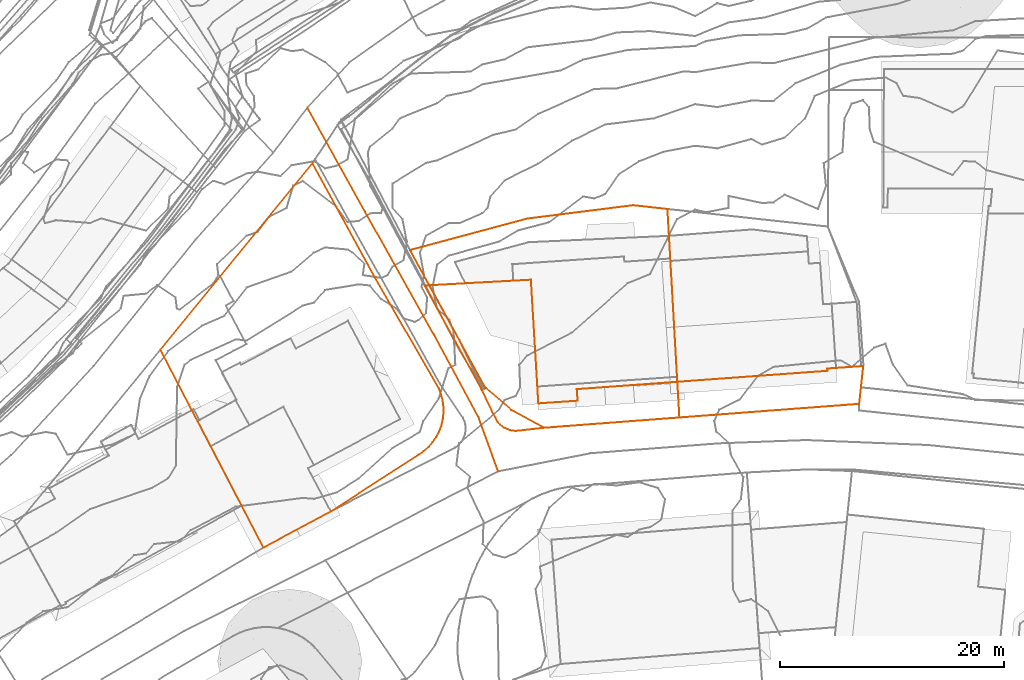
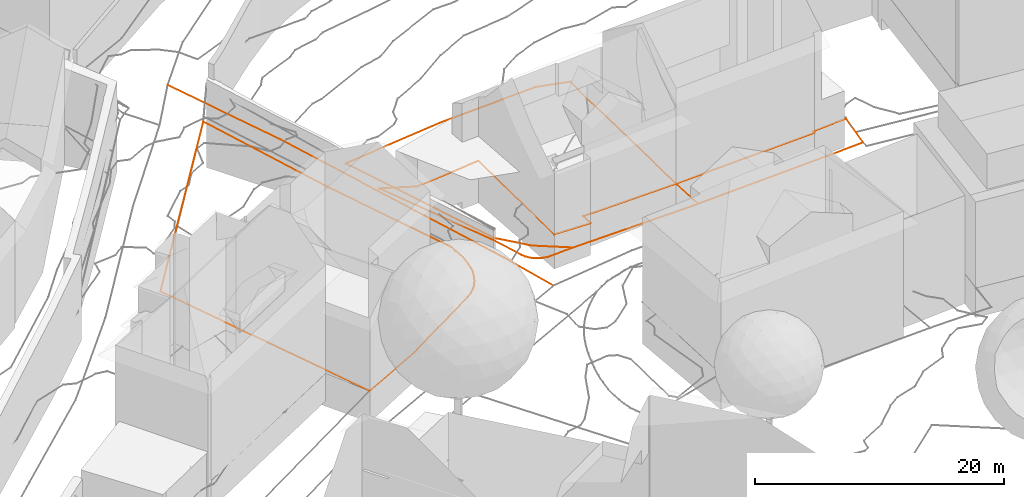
# Not in any storey, part 199 of 494: 4 proxies.
"""IFC2X3 model written with IfcOpenShell, lengths in metres."""

from ifc_helpers import new_model, entity, si_unit, frame, origin_with_axes, place, context, subcontext, project, element, save


model = new_model("IFC2X3")

# Units and contexts
model_context = context("Model", 3, precision=1e-05, world=origin_with_axes())
body_context = subcontext(model_context, "Body", "Model", "MODEL_VIEW")
ifc_project = project(units=[si_unit("AREAUNIT", "SQUARE_METRE"), si_unit("LENGTHUNIT", "METRE")], contexts=[model_context])

# Proxies
proxy_1_placement = place(None, frame((526.0887320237, 306.1137338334, 509.564), z_axis=(0.0, 0.0, 1.0), x_axis=(1.0, 0.0, 0.0)))
element("IfcBuildingElementProxy", 1, at=proxy_1_placement, Name="Road 157", ObjectType="NOTDEFINED", context=body_context, shape_type="GeometricCurveSet", body=[
    entity("IfcGeometricCurveSet", [entity("IfcPolyline", [entity("IfcCartesianPoint", [17.0340000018, -32.453999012, -5.954]), entity("IfcCartesianPoint", [15.2719999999, -27.6079991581, -5.535]), entity("IfcCartesianPoint", [11.3080000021, -20.2649993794, -4.023]), entity("IfcCartesianPoint", [5.1400000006, -9.2519997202, -1.534]), entity("IfcCartesianPoint", [0.0, 0.0, 0.0])])]),
])
proxy_2_placement = place(None, frame((536.5667320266, 290.2477160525, 505.3835960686), z_axis=(0.0, 0.0, 1.0), x_axis=(1.0, 0.0, 0.0)))
element("IfcBuildingElementProxy", 2, at=proxy_2_placement, Name="Roads Outline 85", ObjectType="NOTDEFINED", context=body_context, shape_type="GeometricCurveSet", body=[
    entity("IfcGeometricCurveSet", [entity("IfcPolyline", [entity("IfcCartesianPoint", [0.0, 0.0, 0.0]), entity("IfcCartesianPoint", [3.622, 0.199, -1.1983876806]), entity("IfcCartesianPoint", [9.4720000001, 0.52, -0.9313934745]), entity("IfcCartesianPoint", [10.1400000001, -10.52, -1.6788039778]), entity("IfcCartesianPoint", [13.6469999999, -10.281, -1.9527193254]), entity("IfcCartesianPoint", [13.5720000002, -9.2509999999, -1.8727832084]), entity("IfcCartesianPoint", [22.5430000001, -8.594, -2.220691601]), entity("IfcCartesianPoint", [35.943, -7.612, -2.5140492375]), entity("IfcCartesianPoint", [35.9280000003, -7.4099999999, -2.4933574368]), entity("IfcCartesianPoint", [38.9509999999, -7.2010000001, -2.493307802]), entity("IfcCartesianPoint", [39.1370000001, -7.1880000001, -2.4978998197]), entity("IfcCartesianPoint", [38.9300000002, -9.095, -2.6065473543]), entity("IfcCartesianPoint", [38.77, -10.5649999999, -2.6585961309]), entity("IfcCartesianPoint", [22.7310000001, -11.777, -2.3434007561]), entity("IfcCartesianPoint", [10.6320000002, -12.6980000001, -1.8195108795]), entity("IfcCartesianPoint", [8.4920000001, -12.9410000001, -1.7067195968]), entity("IfcCartesianPoint", [8.1150000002, -12.976, -1.6856202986]), entity("IfcCartesianPoint", [7.7379999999, -12.939, -1.6664384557]), entity("IfcCartesianPoint", [7.375, -12.831, -1.6507349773]), entity("IfcCartesianPoint", [7.0389999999, -12.6570000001, -1.6370482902]), entity("IfcCartesianPoint", [6.7420000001, -12.422, -1.6139768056]), entity("IfcCartesianPoint", [6.4950000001, -12.135, -1.5802082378]), entity("IfcCartesianPoint", [6.307, -11.8060000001, -1.542326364]), entity("IfcCartesianPoint", [5.0840000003, -9.2779999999, -1.1630651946]), entity("IfcCartesianPoint", [5.0460000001, -9.2010000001, -1.1589280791]), entity("IfcCartesianPoint", [0.0, 0.0, 0.0])])]),
])
proxy_3_placement = place(None, frame((535.2597320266, 293.4207160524, 506.3619766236), z_axis=(0.0, 0.0, 1.0), x_axis=(1.0, 0.0, 0.0)))
element("IfcBuildingElementProxy", 3, at=proxy_3_placement, Name="Cadastre 117", ObjectType="NOTDEFINED", context=body_context, shape_type="GeometricCurveSet", body=[
    entity("IfcGeometricCurveSet", [entity("IfcPolyline", [entity("IfcCartesianPoint", [0.0, 0.0, 0.0]), entity("IfcCartesianPoint", [10.429, 2.801, -1.3257285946]), entity("IfcCartesianPoint", [19.898, 3.9920000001, -1.9088062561]), entity("IfcCartesianPoint", [22.9680000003, 3.652, -2.2358954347]), entity("IfcCartesianPoint", [23.108, 1.202, -2.4559819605]), entity("IfcCartesianPoint", [23.8480000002, -11.7290000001, -3.1989259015]), entity("IfcCartesianPoint", [24.0380000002, -14.95, -3.3217813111]), entity("IfcCartesianPoint", [11.9390000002, -15.871, -2.7978914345]), entity("IfcCartesianPoint", [9.0300000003, -14.2709999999, -2.5583777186]), entity("IfcCartesianPoint", [6.71, -12.2709999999, -2.2117652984]), entity("IfcCartesianPoint", [0.0, 0.0, 0.0])])]),
])
proxy_4_placement = place(None, frame((512.9717320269, 284.5377160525, 506.9906792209), z_axis=(0.0, 0.0, 1.0), x_axis=(1.0, 0.0, 0.0)))
element("IfcBuildingElementProxy", 4, at=proxy_4_placement, Name="Cadastre 129", ObjectType="NOTDEFINED", context=body_context, shape_type="GeometricCurveSet", body=[
    entity("IfcGeometricCurveSet", [entity("IfcPolyline", [entity("IfcCartesianPoint", [0.0, 0.0, 0.0]), entity("IfcCartesianPoint", [13.5689999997, 16.6229999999, 1.837974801]), entity("IfcCartesianPoint", [19.1579999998, 6.432, -0.3257036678]), entity("IfcCartesianPoint", [24.8679999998, -3.4980000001, -2.1817186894]), entity("IfcCartesianPoint", [25.0629999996, -4.0220000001, -2.3483350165]), entity("IfcCartesianPoint", [25.1949999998, -4.5650000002, -2.4694952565]), entity("IfcCartesianPoint", [25.2629999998, -5.1189999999, -2.5539370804]), entity("IfcCartesianPoint", [25.2659999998, -5.6780000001, -2.6396270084]), entity("IfcCartesianPoint", [25.2039999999, -6.2340000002, -2.7161649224]), entity("IfcCartesianPoint", [25.0779999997, -6.7780000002, -2.7735326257]), entity("IfcCartesianPoint", [24.8759999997, -7.3030000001, -2.8190236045]), entity("IfcCartesianPoint", [24.6140000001, -7.8, -2.8850613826]), entity("IfcCartesianPoint", [24.2949999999, -8.264, -2.9144093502]), entity("IfcCartesianPoint", [23.9239999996, -8.6870000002, -2.9316256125]), entity("IfcCartesianPoint", [23.5069999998, -9.064, -2.9355620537]), entity("IfcCartesianPoint", [23.048, -9.389, -2.9039421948]), entity("IfcCartesianPoint", [15.219, -14.4400000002, -2.5118460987]), entity("IfcCartesianPoint", [9.1999999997, -17.6700000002, -2.2180439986]), entity("IfcCartesianPoint", [0.0, 0.0, 0.0])])]),
])

save(model, "model.ifc")
